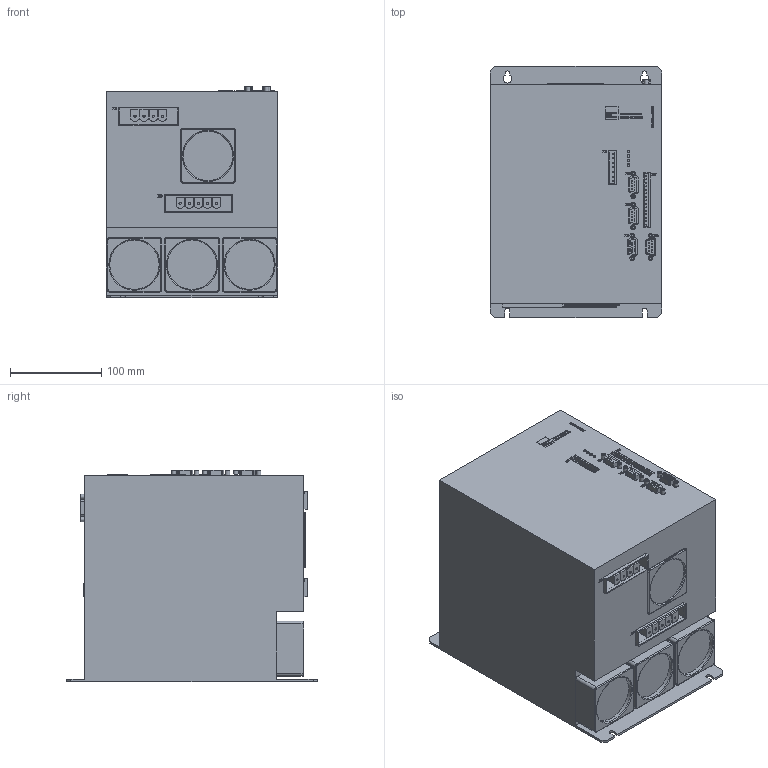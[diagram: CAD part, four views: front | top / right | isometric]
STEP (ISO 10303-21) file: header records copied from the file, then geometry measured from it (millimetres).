
FILE_DESCRIPTION(/* description */ ('Alibre Inc.'),/* implementation_level */ '2;1');
FILE_NAME(/* name */ 'export0',/* time_stamp */ '2011-02-11T08:30:00+01:00',/* author */ (''),/* organization */ ('ESR Pollmeier GmbH'),/* preprocessor_version */ 'ST-DEVELOPER v10',/* originating_system */ 'Alibre',/* authorisation */ '');
FILE_SCHEMA (('CONFIG_CONTROL_DESIGN'));
Length unit declared in the file: centimetre
Products named in the file (1): ID_1
Bounding box: 188 x 275 x 231 mm (x, y, z)
Surface area: 358094.8 mm2
Topology: 20 solids, 31 shells, 1969 faces, 4993 edges, 3308 vertices
Faces by surface type: plane 1021, bspline 685, cylinder 239, torus 24
Full cylindrical faces by diameter (mm): 1 x66, 2 x4, 2.5 x29, 3 x6, 5 x20, 54 x4
Entity records: 57992 total; most frequent: CARTESIAN_POINT 16255, ORIENTED_EDGE 9752, DIRECTION 5456, EDGE_CURVE 4856, VERTEX_POINT 3308, VECTOR 3004, LINE 3004, EDGE_LOOP 2392
